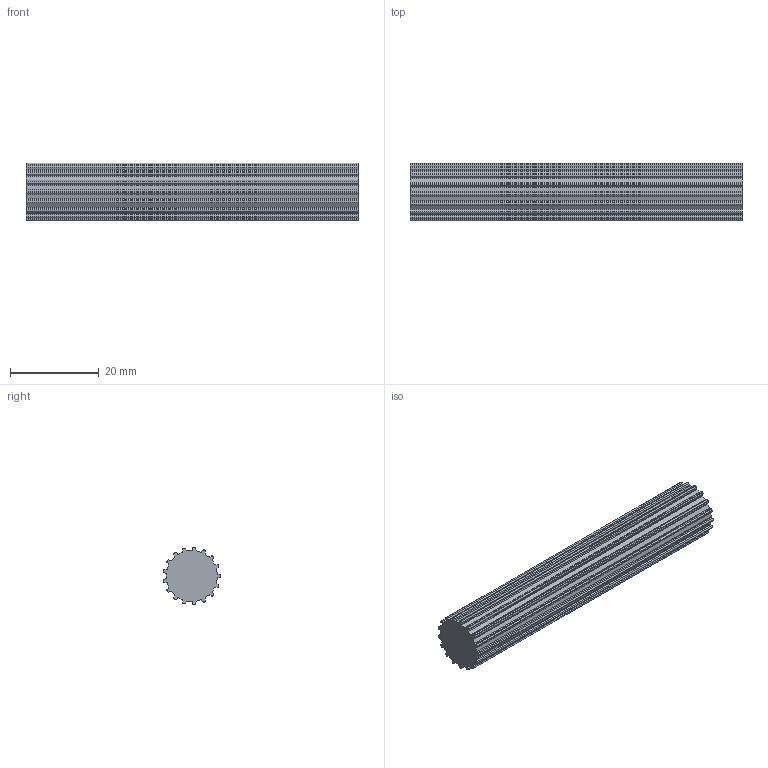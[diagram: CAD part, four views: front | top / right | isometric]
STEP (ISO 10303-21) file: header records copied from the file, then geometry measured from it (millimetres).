
FILE_DESCRIPTION( ( 'STEP AP214' ), '1' );
FILE_NAME( 'C:/Users/StangenbergN/Documents/CAD_Step/1/16091700.stp', '2019-07-25T19:40:56', ( '' ), ( '' ), ' ', 'PARTsolutions', ' ' );
FILE_SCHEMA( ( 'AUTOMOTIVE_DESIGN { 1 0 10303 214 1 1 1 1 }' ) );
Length unit declared in the file: millimetre
Products named in the file (1): _16091700
Bounding box: 75 x 12.94 x 12.99 mm (x, y, z)
Volume: 8570.8 mm3; surface area: 4229.7 mm2
Topology: 1 solids, 1 shells, 138 faces, 408 edges, 272 vertices
Faces by surface type: cylinder 85, plane 53
Entity records: 5802 total; most frequent: DIRECTION 856, CARTESIAN_POINT 819, ORIENTED_EDGE 816, EDGE_CURVE 408, AXIS2_PLACEMENT_3D 309, VERTEX_POINT 272, LINE 238, VECTOR 238
